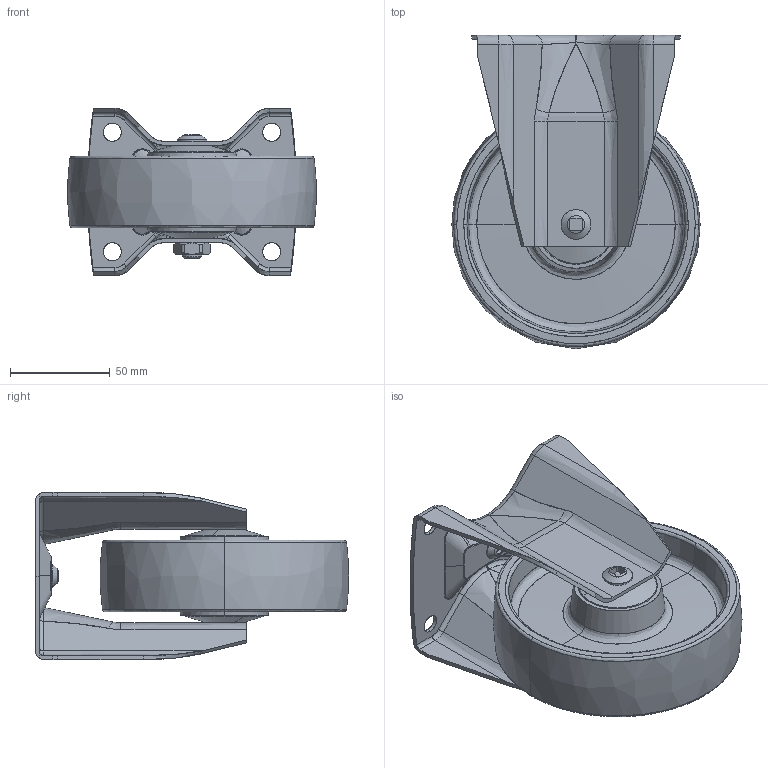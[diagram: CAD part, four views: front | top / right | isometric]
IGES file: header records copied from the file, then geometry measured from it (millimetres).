
Start section: SolidWorks IGES file using analytic representation for surfaces
Global section: file name: S:\Tyokansio\VL\LK\400661_IGES.IGS; native system: SolidWorks 2011; preprocessor: SolidWorks 2011; author: VilleLa; date: 110829.095618; units: millimetre
Bounding box: 124.75 x 157.38 x 84 mm (x, y, z)
Surface area: 103680.8 mm2 (no closed solid volume)
Topology: 0 solids, 0 shells, 287 faces, 4320 edges, 4320 vertices
Faces by surface type: bspline 189, revolution 98
